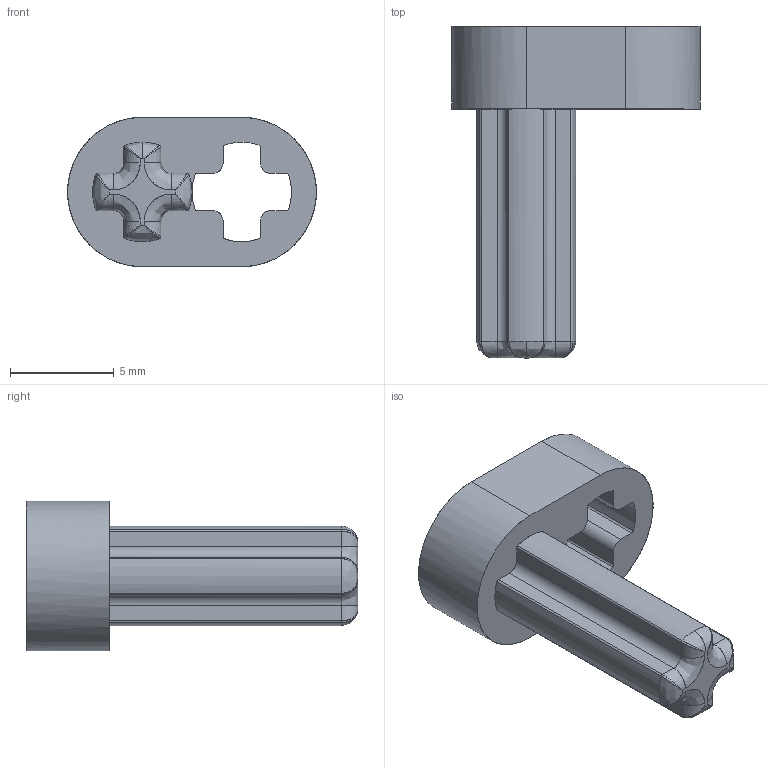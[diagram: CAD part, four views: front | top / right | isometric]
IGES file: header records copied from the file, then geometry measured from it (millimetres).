
Start section: C
Global section: file name: Ye_4119474_JCA.iges; native system: By Siemens PLM Incorporated; preprocessor: XPlus GENERIC/IGES 26.1.183; author: Author; organization: Title; date: 20250722.000659; units: millimetre
Bounding box: 11.99 x 16 x 7.2 mm (x, y, z)
Surface area: 517.3 mm2 (no closed solid volume)
Topology: 0 solids, 0 shells, 82 faces, 424 edges, 414 vertices
Faces by surface type: bspline 82
